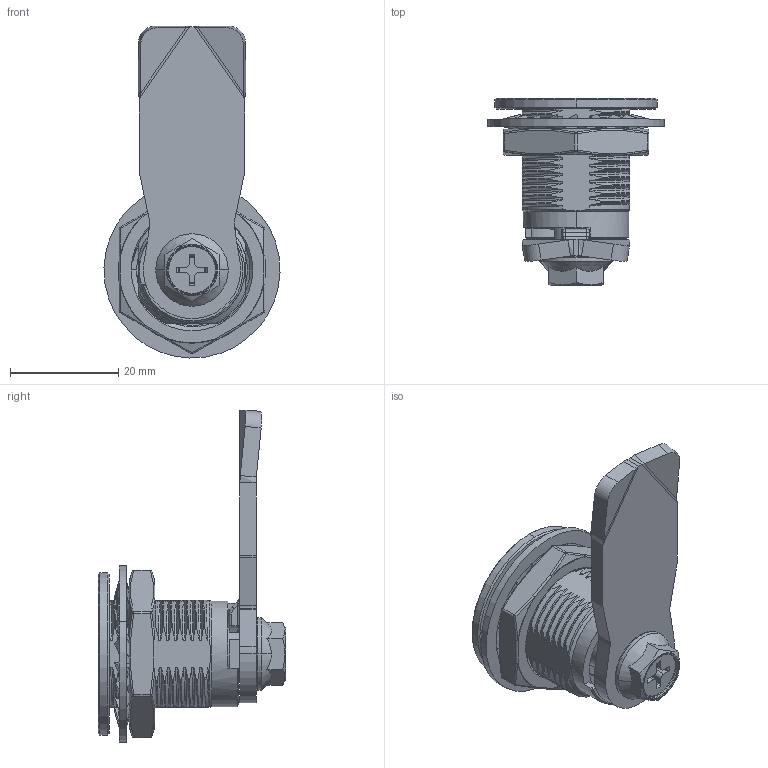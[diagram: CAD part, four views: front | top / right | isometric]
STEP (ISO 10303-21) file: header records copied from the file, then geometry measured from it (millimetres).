
FILE_DESCRIPTION (( 'STEP AP203' ), '1' );
FILE_NAME ('CUYUE D1-1450-R.STEP', '2026-06-17T07:02:07', ( '' ), ( '' ), 'SwSTEP 2.0', 'SolidWorks 2020', '' );
FILE_SCHEMA (( 'CONFIG_CONTROL_DESIGN' ));
Length unit declared in the file: millimetre
Products named in the file (11): _model1_1.sldasm-Part-1; CUYUE D1-1450-R; _model1_1.sldasm-Part-7; _model1_1.sldasm-Part-10; _model1_1.sldasm-Part-8; _model1_1.sldasm-Part-2; _model1_1.sldasm-Part-9; _model1_1.sldasm-Part-4; _model1_1.sldasm-Part-6; _model1_1.sldasm-Part-5; _model1_1.sldasm-Part-3
Assembly tree (9 placements, depth 2):
  CUYUE D1-1450-R
    _model1_1.sldasm-Part-1
    _model1_1.sldasm-Part-2
    _model1_1.sldasm-Part-3
    _model1_1.sldasm-Part-4
    _model1_1.sldasm-Part-5
    _model1_1.sldasm-Part-6
    _model1_1.sldasm-Part-8
    _model1_1.sldasm-Part-9
    _model1_1.sldasm-Part-10
  _model1_1.sldasm-Part-7
Bounding box: 32.57 x 34.7 x 61.43 mm (x, y, z)
Volume: 11824.6 mm3; surface area: 13188.6 mm2
Topology: 9 solids, 9 shells, 731 faces, 1892 edges, 1191 vertices
Faces by surface type: bspline 285, cylinder 237, plane 146, cone 46, torus 17
Entity records: 95839 total; most frequent: CARTESIAN_POINT 79639, ORIENTED_EDGE 3776, DIRECTION 2342, EDGE_CURVE 1888, VERTEX_POINT 1191, AXIS2_PLACEMENT_3D 858, EDGE_LOOP 761, ADVANCED_FACE 731
